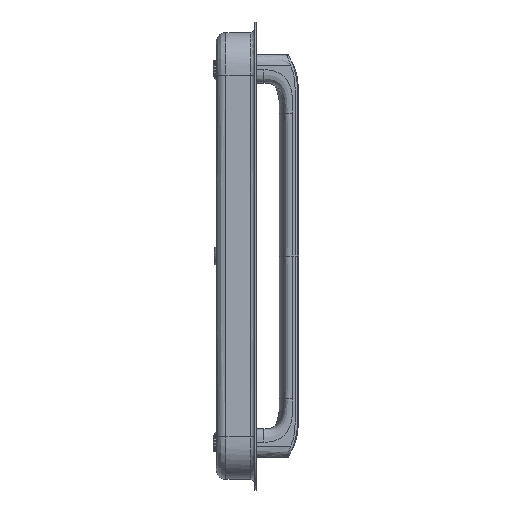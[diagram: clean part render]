
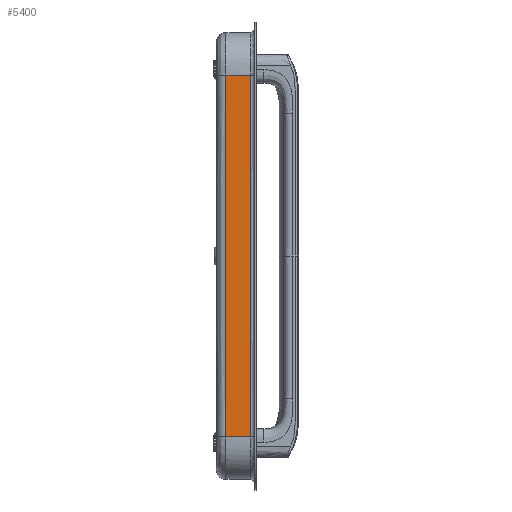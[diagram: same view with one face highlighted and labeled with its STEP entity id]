
A CAD part, left-side view. The second image highlights one B-rep face of the part: STEP entity #5400.
In plain terms, the highlighted free-form (B-spline) face has degree [2, 1] with [3, 2] control points.
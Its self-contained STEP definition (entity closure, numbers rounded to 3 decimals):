
#133=B_SPLINE_SURFACE_WITH_KNOTS('',2,1,((#14396,#14397),(#14398,#14399),
(#14400,#14401)),.UNSPECIFIED.,.F.,.F.,.F.,(3,3),(2,2),(-1.,0.),(0.,2.4),
 .UNSPECIFIED.);
#412=B_SPLINE_CURVE_WITH_KNOTS('',3,(#12750,#12751,#12752,#12753),
 .UNSPECIFIED.,.F.,.F.,(4,4),(0.,18.943),.UNSPECIFIED.);
#436=B_SPLINE_CURVE_WITH_KNOTS('',2,(#14404,#14405,#14406),
 .UNSPECIFIED.,.F.,.F.,(3,3),(0.,18.943),.UNSPECIFIED.);
#900=FACE_OUTER_BOUND('',#1241,.T.);
#1241=EDGE_LOOP('',(#4642,#4643,#4644,#4645));
#1700=LINE('',#14407,#2122);
#1701=LINE('',#14408,#2123);
#2122=VECTOR('',#6525,10.);
#2123=VECTOR('',#6526,10.);
#2618=VERTEX_POINT('',#12592);
#2619=VERTEX_POINT('',#12749);
#2637=VERTEX_POINT('',#14402);
#2638=VERTEX_POINT('',#14403);
#3289=EDGE_CURVE('',#2619,#2618,#412,.T.);
#3330=EDGE_CURVE('',#2637,#2638,#436,.T.);
#3331=EDGE_CURVE('',#2638,#2619,#1700,.T.);
#3332=EDGE_CURVE('',#2618,#2637,#1701,.T.);
#4642=ORIENTED_EDGE('',*,*,#3330,.T.);
#4643=ORIENTED_EDGE('',*,*,#3331,.T.);
#4644=ORIENTED_EDGE('',*,*,#3289,.T.);
#4645=ORIENTED_EDGE('',*,*,#3332,.T.);
#5400=ADVANCED_FACE('',(#900),#133,.T.);
#6525=DIRECTION('',(0.,0.,1.));
#6526=DIRECTION('',(0.,0.,-1.));
#12592=CARTESIAN_POINT('',(153.771,410.458,-2.));
#12749=CARTESIAN_POINT('',(153.771,221.027,-2.));
#12750=CARTESIAN_POINT('Ctrl Pts',(153.771,221.027,-2.));
#12751=CARTESIAN_POINT('Ctrl Pts',(153.771,284.171,-2.));
#12752=CARTESIAN_POINT('Ctrl Pts',(153.771,347.315,-2.));
#12753=CARTESIAN_POINT('Ctrl Pts',(153.771,410.458,-2.));
#14396=CARTESIAN_POINT('Ctrl Pts',(153.771,221.027,0.));
#14397=CARTESIAN_POINT('Ctrl Pts',(153.771,221.027,-24.));
#14398=CARTESIAN_POINT('Ctrl Pts',(153.771,315.743,0.));
#14399=CARTESIAN_POINT('Ctrl Pts',(153.771,315.743,-24.));
#14400=CARTESIAN_POINT('Ctrl Pts',(153.771,410.458,0.));
#14401=CARTESIAN_POINT('Ctrl Pts',(153.771,410.458,-24.));
#14402=CARTESIAN_POINT('',(153.771,410.458,-15.));
#14403=CARTESIAN_POINT('',(153.771,221.027,-15.));
#14404=CARTESIAN_POINT('Ctrl Pts',(153.771,410.458,-15.));
#14405=CARTESIAN_POINT('Ctrl Pts',(153.771,315.743,-15.));
#14406=CARTESIAN_POINT('Ctrl Pts',(153.771,221.027,-15.));
#14407=CARTESIAN_POINT('',(153.771,221.027,-15.));
#14408=CARTESIAN_POINT('',(153.771,410.458,-2.));
